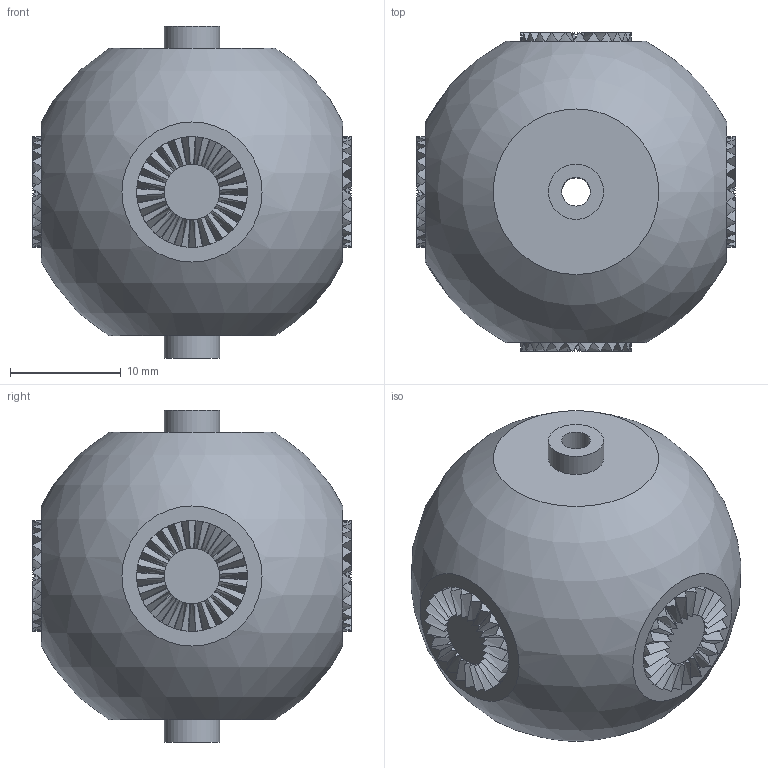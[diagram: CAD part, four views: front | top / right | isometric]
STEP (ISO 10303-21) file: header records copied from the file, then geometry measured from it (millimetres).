
FILE_DESCRIPTION(('Open CASCADE Model'),'2;1');
FILE_NAME('Open CASCADE Shape Model','2026-10-23T00:29:40',('Author'),( 'Open CASCADE'),'Open CASCADE STEP processor 7.9','Open CASCADE 7.9' ,'Unknown');
FILE_SCHEMA(('AUTOMOTIVE_DESIGN { 1 0 10303 214 1 1 1 1 }'));
Length unit declared in the file: millimetre
Products named in the file (1): Open CASCADE STEP translator 7.9 1
Bounding box: 28.8 x 28.8 x 30 mm (x, y, z)
Volume: 4081.1 mm3; surface area: 6077.9 mm2
Topology: 1 solids, 1 shells, 518 faces, 1310 edges, 812 vertices
Faces by surface type: cylinder 302, bspline 192, plane 22, sphere 2
Full cylindrical faces by diameter (mm): 2.6 x2, 3.8 x4, 5 x2, 10 x4, 14.967 x2
Entity records: 41858 total; most frequent: CARTESIAN_POINT 20436, ORIENTED_EDGE 2620, PCURVE 2620, DEFINITIONAL_REPRESENTATION 2620, B_SPLINE_CURVE_WITH_KNOTS 2524, DIRECTION 2373, EDGE_CURVE 1310, SURFACE_CURVE 1292
